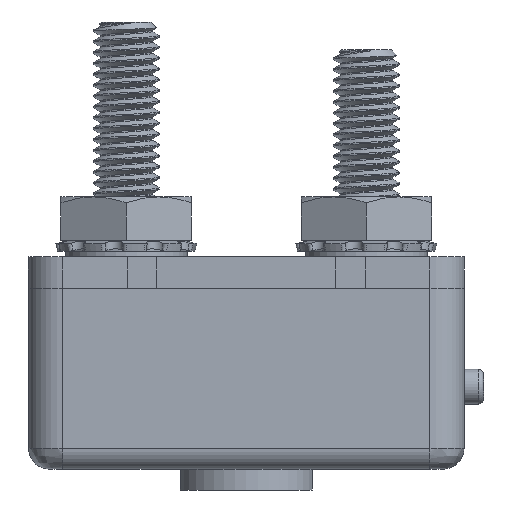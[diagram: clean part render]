
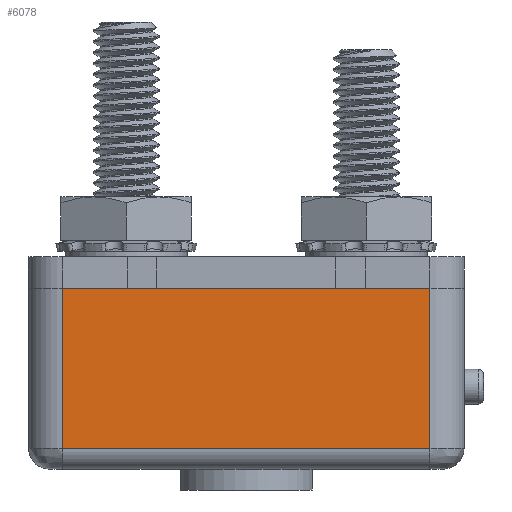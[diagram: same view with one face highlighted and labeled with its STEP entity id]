
A CAD part, front view. The second image highlights one B-rep face of the part: STEP entity #6078.
In plain terms, the highlighted planar face has unit normal (0, -1, 0).
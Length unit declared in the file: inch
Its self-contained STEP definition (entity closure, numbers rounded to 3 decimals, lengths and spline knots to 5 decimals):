
#777=PLANE('',#6448);
#989=FACE_OUTER_BOUND('',#1340,.T.);
#1340=EDGE_LOOP('',(#4898,#4899,#4900,#4901));
#1782=LINE('',#9689,#2210);
#1788=LINE('',#9744,#2216);
#1791=LINE('',#9755,#2219);
#1792=LINE('',#9757,#2220);
#2210=VECTOR('',#7220,0.3937);
#2216=VECTOR('',#7258,0.3937);
#2219=VECTOR('',#7271,0.3937);
#2220=VECTOR('',#7274,0.3937);
#2779=VERTEX_POINT('',#9683);
#2780=VERTEX_POINT('',#9687);
#2786=VERTEX_POINT('',#9743);
#2789=VERTEX_POINT('',#9753);
#3525=EDGE_CURVE('',#2780,#2779,#1782,.T.);
#3540=EDGE_CURVE('',#2779,#2786,#1788,.T.);
#3546=EDGE_CURVE('',#2789,#2780,#1791,.T.);
#3547=EDGE_CURVE('',#2786,#2789,#1792,.T.);
#4898=ORIENTED_EDGE('',*,*,#3525,.F.);
#4899=ORIENTED_EDGE('',*,*,#3546,.F.);
#4900=ORIENTED_EDGE('',*,*,#3547,.F.);
#4901=ORIENTED_EDGE('',*,*,#3540,.F.);
#6078=ADVANCED_FACE('',(#989),#777,.T.);
#6448=AXIS2_PLACEMENT_3D('',#9756,#7272,#7273);
#7220=DIRECTION('',(-1.,0.,0.));
#7258=DIRECTION('',(0.,0.,1.));
#7271=DIRECTION('',(0.,0.,-1.));
#7272=DIRECTION('center_axis',(0.,-1.,0.));
#7273=DIRECTION('ref_axis',(1.,0.,0.));
#7274=DIRECTION('',(1.,0.,0.));
#9683=CARTESIAN_POINT('',(0.09843,0.,0.06));
#9687=CARTESIAN_POINT('',(1.15354,0.,0.06));
#9689=CARTESIAN_POINT('',(0.31299,0.,0.06));
#9743=CARTESIAN_POINT('',(0.09843,0.,0.52));
#9744=CARTESIAN_POINT('',(0.09843,0.,0.));
#9753=CARTESIAN_POINT('',(1.15354,0.,0.52));
#9755=CARTESIAN_POINT('',(1.15354,0.,0.));
#9756=CARTESIAN_POINT('Origin',(0.,0.,0.));
#9757=CARTESIAN_POINT('',(0.,0.,0.52));
